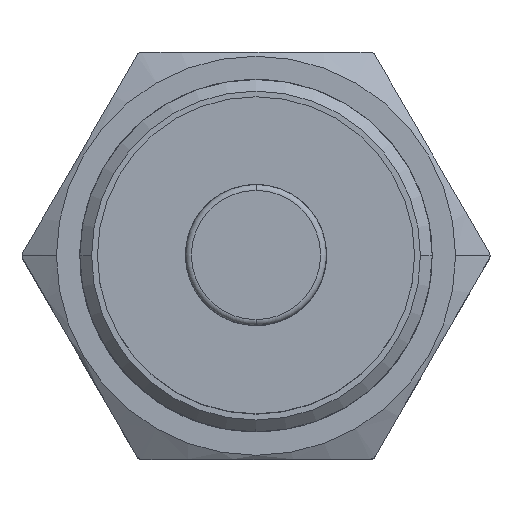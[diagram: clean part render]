
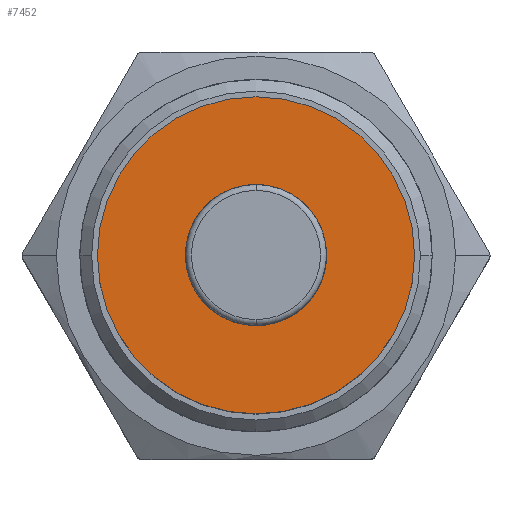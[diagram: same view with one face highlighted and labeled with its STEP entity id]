
A CAD part, top view. The second image highlights one B-rep face of the part: STEP entity #7452.
In plain terms, the highlighted planar face has unit normal (0, 0, 1).
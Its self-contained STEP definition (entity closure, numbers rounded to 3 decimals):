
#2430=CARTESIAN_POINT('',(0.,0.,64.));
#2431=DIRECTION('',(0.,0.,1.));
#2432=DIRECTION('',(1.,0.,0.));
#2433=AXIS2_PLACEMENT_3D('',#2430,#2431,#2432);
#2438=CARTESIAN_POINT('',(0.,0.,64.));
#2439=DIRECTION('',(0.,0.,1.));
#2440=DIRECTION('',(-1.,0.,0.));
#2441=AXIS2_PLACEMENT_3D('',#2438,#2439,#2440);
#2446=CARTESIAN_POINT('',(0.,0.,64.));
#2447=DIRECTION('',(0.,0.,1.));
#2448=DIRECTION('',(1.,0.,0.));
#2449=AXIS2_PLACEMENT_3D('',#2446,#2447,#2448);
#2454=CARTESIAN_POINT('',(0.,0.,64.));
#2455=DIRECTION('',(0.,0.,1.));
#2456=DIRECTION('',(-1.,0.,0.));
#2457=AXIS2_PLACEMENT_3D('',#2454,#2455,#2456);
#3520=CARTESIAN_POINT('',(13.5,0.,64.));
#3521=CARTESIAN_POINT('',(-13.5,0.,64.));
#3522=VERTEX_POINT('',#3520);
#3523=VERTEX_POINT('',#3521);
#3612=CARTESIAN_POINT('',(5.,0.,64.));
#3613=CARTESIAN_POINT('',(-5.,0.,64.));
#3614=VERTEX_POINT('',#3612);
#3615=VERTEX_POINT('',#3613);
#7437=CARTESIAN_POINT('',(0.,0.,64.));
#7438=DIRECTION('',(0.,0.,1.));
#7439=DIRECTION('',(1.,0.,0.));
#7440=AXIS2_PLACEMENT_3D('',#7437,#7438,#7439);
#7441=PLANE('',#7440);
#7442=ORIENTED_EDGE('',*,*,#7417,.F.);
#7443=ORIENTED_EDGE('',*,*,#7431,.F.);
#7444=EDGE_LOOP('',(#7442,#7443));
#7445=FACE_OUTER_BOUND('',#7444,.F.);
#7447=ORIENTED_EDGE('',*,*,#7446,.T.);
#7449=ORIENTED_EDGE('',*,*,#7448,.T.);
#7450=EDGE_LOOP('',(#7447,#7449));
#7451=FACE_BOUND('',#7450,.F.);
#2434=CIRCLE('',#2433,13.5);
#2442=CIRCLE('',#2441,13.5);
#2450=CIRCLE('',#2449,5.);
#2458=CIRCLE('',#2457,5.);
#7417=EDGE_CURVE('',#3522,#3523,#2434,.T.);
#7431=EDGE_CURVE('',#3523,#3522,#2442,.T.);
#7446=EDGE_CURVE('',#3614,#3615,#2450,.T.);
#7448=EDGE_CURVE('',#3615,#3614,#2458,.T.);
#7452=ADVANCED_FACE('',(#7445,#7451),#7441,.T.);
